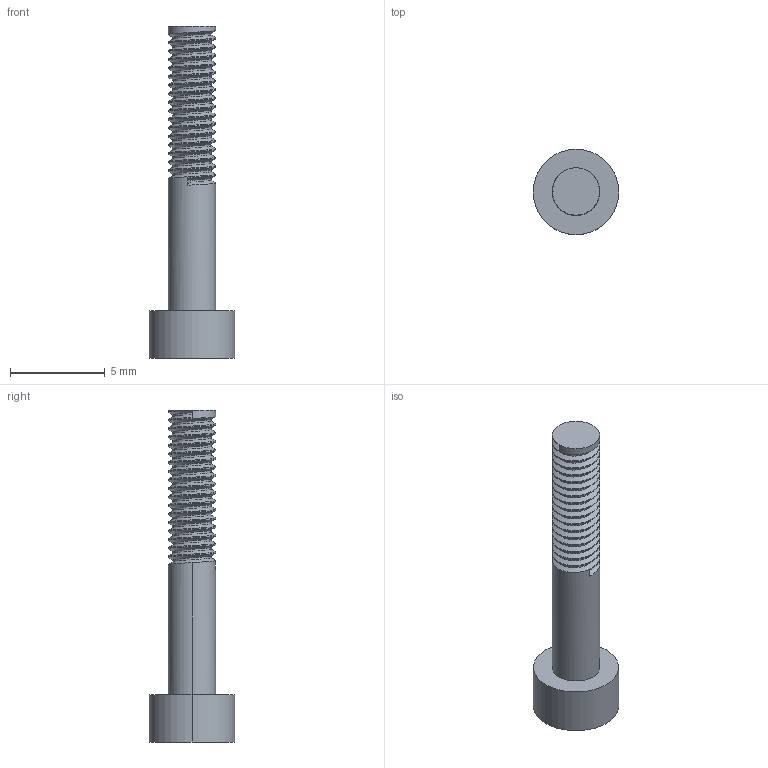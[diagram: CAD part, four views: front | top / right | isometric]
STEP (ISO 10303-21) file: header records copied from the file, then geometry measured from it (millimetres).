
FILE_DESCRIPTION (( 'STEP AP214' ), '1' );
FILE_NAME ('M2_5_Schraube.STEP', '2026-02-05T09:55:08', ( '' ), ( '' ), 'SwSTEP 2.0', 'SolidWorks 2025', '' );
FILE_SCHEMA (( 'AUTOMOTIVE_DESIGN' ));
Length unit declared in the file: metre
Products named in the file (1): M2_5_Schraube
Bounding box: 4.5 x 4.5 x 17.5 mm (x, y, z)
Volume: 96.1 mm3; surface area: 227.9 mm2
Topology: 1 solids, 1 shells, 54 faces, 147 edges, 97 vertices
Faces by surface type: cylinder 39, plane 12, bspline 3
Entity records: 3602 total; most frequent: CARTESIAN_POINT 2452, ORIENTED_EDGE 294, DIRECTION 179, EDGE_CURVE 147, VERTEX_POINT 97, AXIS2_PLACEMENT_3D 60, VECTOR 59, LINE 59
